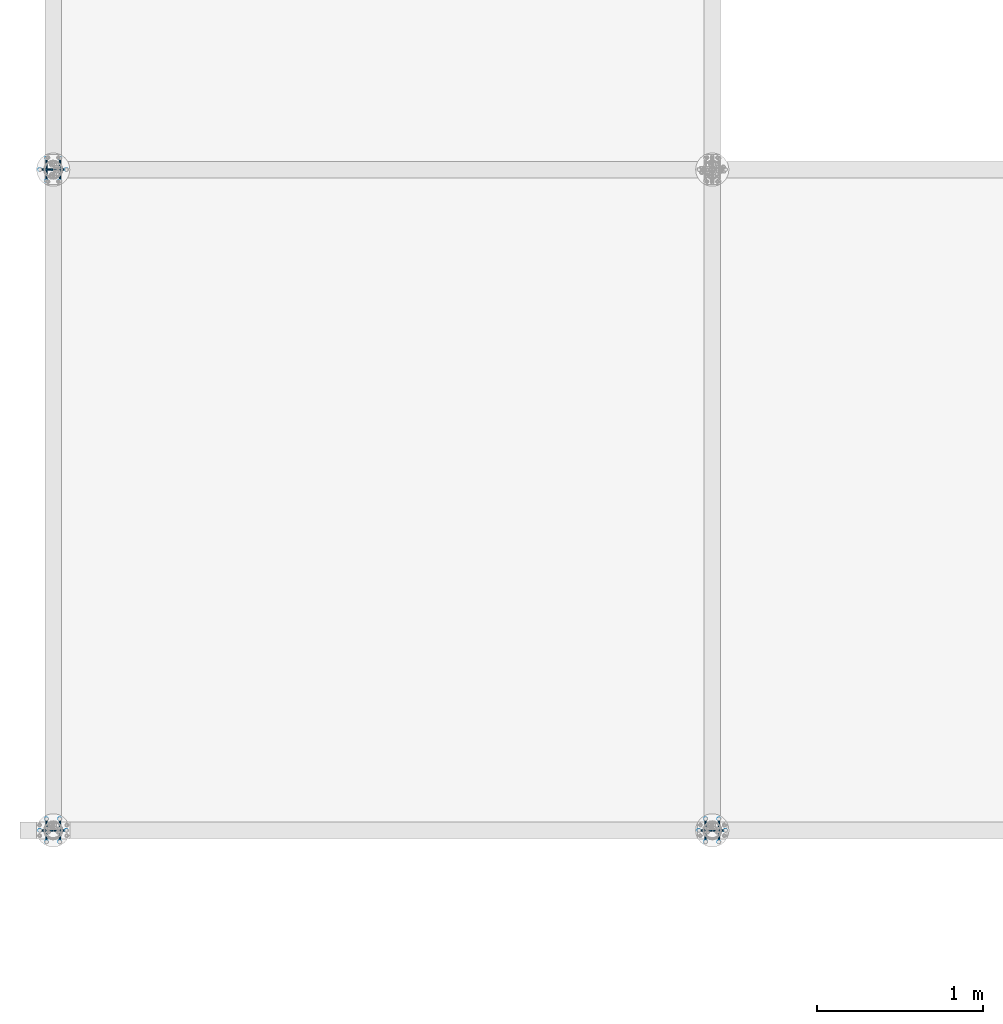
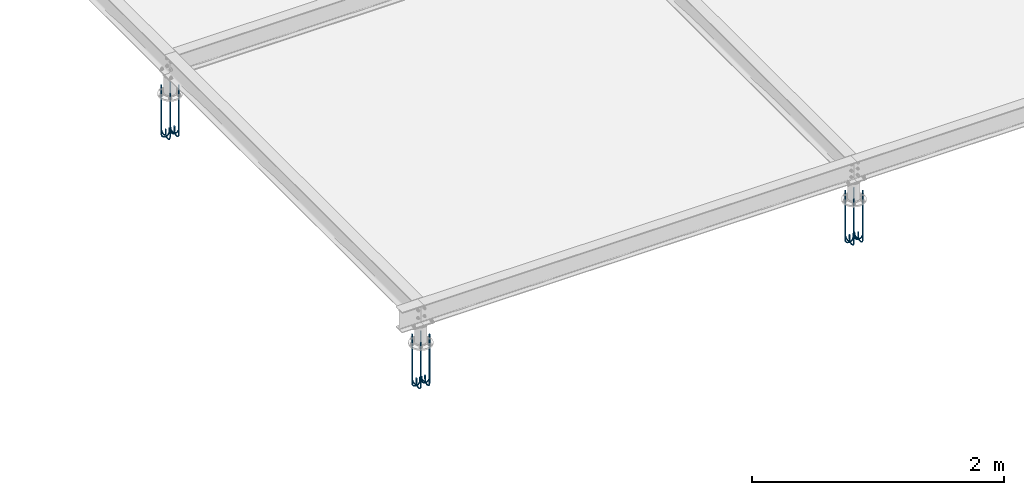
# One storey, part 12 of 84: 9 reinforcing bars.
"""IFC4 building model written with IfcOpenShell, lengths in metres."""

import ifcopenshell
import ifcopenshell.guid

model = None  # the IFC model being written
_history = None  # IfcOwnerHistory: only IFC2X3 demands one
_inside = {}  # id of a spatial element -> (the spatial element, [elements in it])
_under = {}  # id of a project, library or spatial element -> (it, [spatial elements below it])
_declared = {}  # id of a project -> (the project, [libraries it declares])
_typed = {}  # id of a type object -> (the type object, [elements of that type])
_made_of = {}  # id of a material, layer set ... -> (it, [elements and type objects made of it])


def new_model(schema):
    """Start an empty IFC model of exactly this schema.

    Asked for "IFC4X3", IfcOpenShell would pick the latest addendum, in which some entities
    have other attributes; the version numbers below select the first issue.
    IFC2X3 requires an IfcOwnerHistory on every rooted entity: one is made here for all.
    """
    global model, _history
    if schema == "IFC4X3":
        model = ifcopenshell.file(schema_version=(4, 3, 0, 0))
    else:
        model = ifcopenshell.file(schema=schema)
    _inside.clear()
    _under.clear()
    _declared.clear()
    _typed.clear()
    _made_of.clear()
    _history = None
    if model.schema == "IFC2X3":
        org = make("IfcOrganization", Name="unknown")
        user = make(
            "IfcPersonAndOrganization",
            ThePerson=make("IfcPerson", FamilyName="unknown"),
            TheOrganization=org,
        )
        app = make(
            "IfcApplication",
            ApplicationDeveloper=org,
            Version="unknown",
            ApplicationFullName="unknown",
            ApplicationIdentifier="unknown",
        )
        _history = make(
            "IfcOwnerHistory",
            OwningUser=user,
            OwningApplication=app,
            ChangeAction="ADDED",
            CreationDate=0,
        )
    return model


def make(cls, **values):
    """One entity of the class cls with the attributes given. An attribute that is None is left unset."""
    return model.create_entity(
        cls, **{name: value for name, value in values.items() if value is not None}
    )


def entity(cls, *values):
    """Any entity or typed value of the class cls, its attributes in the order of the schema. None: left unset."""
    e = model.create_entity(cls)
    for i, value in enumerate(values):
        if value is not None:
            e[i] = value
    return e


def rooted(cls, **values):
    """An entity with a GlobalId (a new one), such as an element, a storey or a relation."""
    return make(cls, GlobalId=ifcopenshell.guid.new(), OwnerHistory=_history, **values)


def si_unit(unit_type, name, prefix=None):
    """IfcSIUnit, for example si_unit("LENGTHUNIT", "METRE", prefix="MILLI")."""
    return make("IfcSIUnit", UnitType=unit_type, Prefix=prefix, Name=name)


def assignment(units):
    """IfcUnitAssignment: the units of a project."""
    return None if units is None else make("IfcUnitAssignment", Units=units)


def point(xyz):
    """IfcCartesianPoint."""
    return None if xyz is None else make("IfcCartesianPoint", Coordinates=xyz)


def direction(xyz):
    """IfcDirection."""
    return None if xyz is None else make("IfcDirection", DirectionRatios=xyz)


def frame(location, z_axis=None, x_axis=None):
    """IfcAxis2Placement3D, a coordinate frame: its origin and axes. An axis left out is left unset."""
    return make(
        "IfcAxis2Placement3D",
        Location=point(location),
        Axis=direction(z_axis),
        RefDirection=direction(x_axis),
    )


def origin_with_axes():
    """The frame at (0, 0, 0) with the z axis (0, 0, 1) and the x axis (1, 0, 0) written out."""
    return frame((0.0, 0.0, 0.0), z_axis=(0.0, 0.0, 1.0), x_axis=(1.0, 0.0, 0.0))


def place(relative_to, where):
    """IfcLocalPlacement: puts the frame where relative to a parent placement (None: the world)."""
    return make(
        "IfcLocalPlacement", PlacementRelTo=relative_to, RelativePlacement=where
    )


def context(
    kind, dimensions, precision=None, world=None, true_north=None, identifier=None
):
    """IfcGeometricRepresentationContext, for example the 3D "Model" context."""
    return make(
        "IfcGeometricRepresentationContext",
        ContextIdentifier=identifier,
        ContextType=kind,
        CoordinateSpaceDimension=dimensions,
        Precision=precision,
        WorldCoordinateSystem=world,
        TrueNorth=true_north,
    )


def project(units=None, contexts=None):
    """IfcProject with its units and contexts."""
    return rooted(
        "IfcProject",
        Name="project",
        RepresentationContexts=contexts,
        UnitsInContext=assignment(units),
    )


def spatial(cls, under=None, at=None, **own):
    """A site, building, storey or space (cls), placed at a placement, below another one or the project."""
    s = rooted(cls, ObjectPlacement=at, **own)
    if under is not None:
        _under.setdefault(under.id(), (under, []))[1].append(s)
    return s


def shape(context_of_items, identifier, shape_type, items):
    """IfcShapeRepresentation: the items that make up one representation, for example the "Body"."""
    return make(
        "IfcShapeRepresentation",
        ContextOfItems=context_of_items,
        RepresentationIdentifier=identifier,
        RepresentationType=shape_type,
        Items=items,
    )


def source(mapping_origin, context_of_items, identifier, shape_type, items):
    """IfcRepresentationMap: a shape defined once, which mapped items show again and again."""
    return make(
        "IfcRepresentationMap",
        MappingOrigin=mapping_origin,
        MappedRepresentation=shape(context_of_items, identifier, shape_type, items),
    )


def transform(
    local_origin,
    x_axis=None,
    y_axis=None,
    z_axis=None,
    scale=None,
    scale2=None,
    scale3=None,
    uniform=True,
):
    """IfcCartesianTransformationOperator3D, or its non-uniform kind. x_axis, y_axis, z_axis: its Axis1, 2, 3."""
    if uniform:
        return make(
            "IfcCartesianTransformationOperator3D",
            Axis1=direction(x_axis),
            Axis2=direction(y_axis),
            LocalOrigin=point(local_origin),
            Scale=scale,
            Axis3=direction(z_axis),
        )
    return make(
        "IfcCartesianTransformationOperator3DnonUniform",
        Axis1=direction(x_axis),
        Axis2=direction(y_axis),
        LocalOrigin=point(local_origin),
        Scale=scale,
        Axis3=direction(z_axis),
        Scale2=scale2,
        Scale3=scale3,
    )


def mapped(mapping_source, mapping_target):
    """IfcMappedItem: shows the shape of a source again, moved by a transform."""
    return make(
        "IfcMappedItem", MappingSource=mapping_source, MappingTarget=mapping_target
    )


def made_of(thing, what):
    """Note that an element or type object is made of a material, layer set ...; save() writes the relation."""
    if what is not None:
        _made_of.setdefault(what.id(), (what, []))[1].append(thing)
    return thing


def element(
    cls,
    number,
    at=None,
    inside=None,
    cuts=None,
    type_object=None,
    material=None,
    context=None,
    identifier="Body",
    shape_type=None,
    held_by="IfcProductDefinitionShape",
    body=None,
    shapes=None,
    **own,
):
    """One element of the class cls, such as IfcWall. Its Tag is "e" and its number.

    at: its placement. inside: the storey or other place that contains it. cuts: it is an
    opening in that element (IfcRelVoidsElement). A single representation is given by context,
    identifier, shape_type and body (its items); several are given by shapes. held_by: the class
    of the entity that holds the representations. save() writes the other relations.
    """
    e = rooted(cls, Tag="e%d" % number, ObjectPlacement=at, **own)
    if body is not None:
        shapes = [shape(context, identifier, shape_type, body)]
    if shapes is not None:
        e.Representation = make(held_by, Representations=shapes)
    if inside is not None:
        _inside.setdefault(inside.id(), (inside, []))[1].append(e)
    if cuts is not None:
        rooted(
            "IfcRelVoidsElement", RelatingBuildingElement=cuts, RelatedOpeningElement=e
        )
    if type_object is not None:
        _typed.setdefault(type_object.id(), (type_object, []))[1].append(e)
    return made_of(e, material)


def aggregate(whole, parts):
    """IfcRelAggregates: a whole, such as a stair, and the parts it consists of."""
    return rooted("IfcRelAggregates", RelatingObject=whole, RelatedObjects=parts)


def save(model, path):
    """Write the relations noted so far, then the file.

    IfcRelAggregates (storeys below a building ...), IfcRelContainedInSpatialStructure (elements
    in a storey), IfcRelDefinesByType, IfcRelAssociatesMaterial and IfcRelDeclares: one each for
    every whole, place, type object, material and project.
    """
    for whole, parts in _under.values():
        aggregate(whole, parts)
    for where, things in _inside.values():
        rooted(
            "IfcRelContainedInSpatialStructure",
            RelatedElements=things,
            RelatingStructure=where,
        )
    for kind, things in _typed.values():
        rooted("IfcRelDefinesByType", RelatedObjects=things, RelatingType=kind)
    for what, things in _made_of.values():
        rooted("IfcRelAssociatesMaterial", RelatedObjects=things, RelatingMaterial=what)
    for by, libraries in _declared.values():
        rooted("IfcRelDeclares", RelatingContext=by, RelatedDefinitions=libraries)
    model.write(path)


model = new_model("IFC4")

# Units and contexts
model_context = context("Model", 3, precision=1e-05, world=origin_with_axes())
ifc_project = project(units=[si_unit("LENGTHUNIT", "METRE"), si_unit("AREAUNIT", "SQUARE_METRE"), si_unit("VOLUMEUNIT", "CUBIC_METRE"), si_unit("MASSUNIT", "GRAM", prefix="KILO"), si_unit("TIMEUNIT", "SECOND"), si_unit("PLANEANGLEUNIT", "RADIAN"), si_unit("SOLIDANGLEUNIT", "STERADIAN"), si_unit("THERMODYNAMICTEMPERATUREUNIT", "DEGREE_CELSIUS")], contexts=[model_context])

# Site, building, storey
placement_1 = place(None, origin_with_axes())
site = spatial("IfcSite", under=ifc_project, at=placement_1, Name="Italia", CompositionType="ELEMENT")
building = spatial("IfcBuilding", under=site, at=placement_1, Name="Tettoia", CompositionType="ELEMENT")
storey_placement = place(None, frame((0.0, 0.0, 4.199999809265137), z_axis=(0.0, 0.0, 1.0), x_axis=(1.0, 0.0, 0.0)))
storey = spatial("IfcBuildingStorey", under=building, at=storey_placement, Name="Storey 1", CompositionType="ELEMENT", Elevation=4.199999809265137)

# Reinforcing bars
shared_shape_1 = source(origin_with_axes(), model_context, "Body", "AdvancedSweptSolid", [
    entity("IfcSweptDiskSolid", entity("IfcIndexedPolyCurve", entity("IfcCartesianPointList3D", [[0.02, 9.97, 4.065], [0.02, 9.97, 3.642]]), [entity("IfcLineIndex", [1, 2])], False), 0.006),
])
placement_2 = place(placement_1, origin_with_axes())
reinforcing_bar_1_placement = place(placement_2, origin_with_axes())
element("IfcReinforcingBar", 1, at=reinforcing_bar_1_placement, inside=storey, BarLength=0.423, CrossSectionArea=0.0001131, NominalDiameter=0.012, context=model_context, shape_type="MappedRepresentation", body=[
    mapped(shared_shape_1, transform((0.12, -0.0692816, 0.0), x_axis=(1.0, 0.0, 0.0), y_axis=(0.0, 1.0, 0.0), z_axis=(0.0, 0.0, 1.0), scale=1.0)),
    mapped(shared_shape_1, transform((0.04, -0.0692816, 0.0), x_axis=(1.0, 0.0, 0.0), y_axis=(0.0, 1.0, 0.0), z_axis=(0.0, 0.0, 1.0), scale=1.0)),
    mapped(shared_shape_1, transform((0.0, 0.0, 0.0), x_axis=(1.0, 0.0, 0.0), y_axis=(0.0, 1.0, 0.0), z_axis=(0.0, 0.0, 1.0), scale=1.0)),
    mapped(shared_shape_1, transform((0.04, 0.0692816, 0.0), x_axis=(1.0, 0.0, 0.0), y_axis=(0.0, 1.0, 0.0), z_axis=(0.0, 0.0, 1.0), scale=1.0)),
    mapped(shared_shape_1, transform((0.12, 0.0692816, 0.0), x_axis=(1.0, 0.0, 0.0), y_axis=(0.0, 1.0, 0.0), z_axis=(0.0, 0.0, 1.0), scale=1.0)),
    mapped(shared_shape_1, transform((0.16, 0.0, 0.0), x_axis=(1.0, 0.0, 0.0), y_axis=(0.0, 1.0, 0.0), z_axis=(0.0, 0.0, 1.0), scale=1.0)),
])
shared_shape_2 = source(origin_with_axes(), model_context, "Body", "AdvancedSweptSolid", [
    entity("IfcSweptDiskSolid", entity("IfcIndexedPolyCurve", entity("IfcCartesianPointList3D", [[0.02, 9.97, 3.642], [0.0227403, 9.97, 3.62822]]), [entity("IfcLineIndex", [1, 2])], False), 0.006),
])
reinforcing_bar_2_placement = place(placement_2, origin_with_axes())
element("IfcReinforcingBar", 2, at=reinforcing_bar_2_placement, inside=storey, BarLength=0.0140464, CrossSectionArea=0.0001131, NominalDiameter=0.012, context=model_context, shape_type="MappedRepresentation", body=[
    mapped(shared_shape_2, transform((0.200003, 19.94, 0.0), x_axis=(-1.0, 0.0, 0.0), y_axis=(0.0, -1.0, 0.0), z_axis=(0.0, 0.0, 1.0), scale=1.0)),
    mapped(shared_shape_2, transform((-9.83, 7.46767, 1.02705), x_axis=(0.0, -0.707127, 0.707087), y_axis=(1.0, 0.0, 0.0), z_axis=(0.0, 0.707087, 0.707127), scale=1.0)),
    mapped(shared_shape_2, transform((-9.83, 10.0594, 0.0), x_axis=(0.0, -1.0, -2.99215e-05), y_axis=(1.0, 0.0, 0.0), z_axis=(0.0, -2.99215e-05, 1.0), scale=1.0)),
    mapped(shared_shape_2, transform((-9.91, 6.65995, 2.19652), x_axis=(0.0, -0.382685, 0.923879), y_axis=(1.0, 0.0, 0.0), z_axis=(0.0, 0.923879, 0.382685), scale=1.0)),
    mapped(shared_shape_2, transform((-9.83, 8.66126, 0.255811), x_axis=(0.0, -0.923877, 0.382691), y_axis=(1.0, 0.0, 0.0), z_axis=(0.0, 0.382691, 0.923877), scale=1.0)),
    mapped(shared_shape_2, transform((-9.83, 6.65995, 2.19652), x_axis=(0.0, -0.382685, 0.923879), y_axis=(1.0, 0.0, 0.0), z_axis=(0.0, 0.923879, 0.382685), scale=1.0)),
    mapped(shared_shape_2, transform((-9.91, 8.66126, 0.255811), x_axis=(0.0, -0.923877, 0.382691), y_axis=(1.0, 0.0, 0.0), z_axis=(0.0, 0.382691, 0.923877), scale=1.0)),
    mapped(shared_shape_2, transform((-9.91, 10.0594, 0.0), x_axis=(0.0, -1.0, -2.99215e-05), y_axis=(1.0, 0.0, 0.0), z_axis=(0.0, -2.99215e-05, 1.0), scale=1.0)),
    mapped(shared_shape_2, transform((-1.19802, 19.94, 0.25581), x_axis=(-0.923877, 0.0, 0.38269), y_axis=(0.0, -1.0, 0.0), z_axis=(0.38269, 0.0, 0.923877), scale=1.0)),
    mapped(shared_shape_2, transform((-9.91, 7.46767, 1.02705), x_axis=(0.0, -0.707127, 0.707087), y_axis=(1.0, 0.0, 0.0), z_axis=(0.0, 0.707087, 0.707127), scale=1.0)),
    mapped(shared_shape_2, transform((-2.39167, 19.94, 1.02711), x_axis=(-0.70711, 0.0, 0.707104), y_axis=(0.0, -1.0, 0.0), z_axis=(0.707104, 0.0, 0.70711), scale=1.0)),
    mapped(shared_shape_2, transform((-3.19933, 19.94, 2.19651), x_axis=(-0.382689, 0.0, 0.923877), y_axis=(0.0, -1.0, 0.0), z_axis=(0.923877, 0.0, 0.382689), scale=1.0)),
    mapped(shared_shape_2, transform((-9.83, 6.36128, 3.586), x_axis=(0.0, 0.0, 1.0), y_axis=(1.0, 0.0, 0.0), z_axis=(0.0, 1.0, 0.0), scale=1.0)),
    mapped(shared_shape_2, transform((-9.91, 6.36128, 3.586), x_axis=(0.0, 0.0, 1.0), y_axis=(1.0, 0.0, 0.0), z_axis=(0.0, 1.0, 0.0), scale=1.0)),
    mapped(shared_shape_2, transform((-3.2422, 19.94, 4.984), x_axis=(0.382685, 0.0, 0.923879), y_axis=(0.0, -1.0, 0.0), z_axis=(0.923879, 0.0, -0.382685), scale=1.0)),
    mapped(shared_shape_2, transform((-3.498, 19.94, 3.58602), x_axis=(0.0, 0.0, 1.0), y_axis=(0.0, -1.0, 0.0), z_axis=(1.0, 0.0, 0.0), scale=1.0)),
    mapped(shared_shape_2, transform((-9.83, 6.61712, 4.98409), x_axis=(0.0, 0.382708, 0.923869), y_axis=(1.0, 0.0, 0.0), z_axis=(0.0, 0.923869, -0.382708), scale=1.0)),
    mapped(shared_shape_2, transform((-9.91, 7.38823, 6.17752), x_axis=(0.0, 0.70706, 0.707153), y_axis=(1.0, 0.0, 0.0), z_axis=(0.0, 0.707153, -0.70706), scale=1.0)),
    mapped(shared_shape_2, transform((-9.91, 6.61712, 4.98409), x_axis=(0.0, 0.382708, 0.923869), y_axis=(1.0, 0.0, 0.0), z_axis=(0.0, 0.923869, -0.382708), scale=1.0)),
    mapped(shared_shape_2, transform((-9.83, 8.55792, 6.98538), x_axis=(0.0, 0.923892, 0.382654), y_axis=(1.0, 0.0, 0.0), z_axis=(0.0, 0.382654, -0.923892), scale=1.0)),
    mapped(shared_shape_2, transform((-9.83, 7.38823, 6.17752), x_axis=(0.0, 0.70706, 0.707153), y_axis=(1.0, 0.0, 0.0), z_axis=(0.0, 0.707153, -0.70706), scale=1.0)),
    mapped(shared_shape_2, transform((-1.30148, 19.94, 6.98534), x_axis=(0.923879, 0.0, 0.382685), y_axis=(0.0, -1.0, 0.0), z_axis=(0.382685, 0.0, -0.923879), scale=1.0)),
    mapped(shared_shape_2, transform((-2.4709, 19.94, 6.17767), x_axis=(0.707103, 0.0, 0.707111), y_axis=(0.0, -1.0, 0.0), z_axis=(0.707111, 0.0, -0.707103), scale=1.0)),
    mapped(shared_shape_2, transform((-9.91, 8.55792, 6.98538), x_axis=(0.0, 0.923892, 0.382654), y_axis=(1.0, 0.0, 0.0), z_axis=(0.0, 0.382654, -0.923892), scale=1.0)),
    mapped(shared_shape_2, transform((1.50148, 0.0, 6.98534), x_axis=(-0.923879, 0.0, 0.382685), y_axis=(0.0, 1.0, 0.0), z_axis=(-0.382685, 0.0, -0.923879), scale=1.0)),
    mapped(shared_shape_2, transform((2.6709, 0.0, 6.17767), x_axis=(-0.707103, 0.0, 0.707111), y_axis=(0.0, 1.0, 0.0), z_axis=(-0.707111, 0.0, -0.707103), scale=1.0)),
    mapped(shared_shape_2, transform((3.698, 0.0, 3.58602), x_axis=(0.0, 0.0, 1.0), y_axis=(0.0, 1.0, 0.0), z_axis=(-1.0, 0.0, 0.0), scale=1.0)),
    mapped(shared_shape_2, transform((3.4422, 0.0, 4.984), x_axis=(-0.382685, 0.0, 0.923879), y_axis=(0.0, 1.0, 0.0), z_axis=(-0.923879, 0.0, -0.382685), scale=1.0)),
    mapped(shared_shape_2, transform((1.39802, 0.0, 0.255809), x_axis=(0.923877, 0.0, 0.382689), y_axis=(0.0, 1.0, 0.0), z_axis=(-0.382689, 0.0, 0.923877), scale=1.0)),
    mapped(shared_shape_2, transform((0.0, 0.0, 0.0), x_axis=(1.0, 0.0, 0.0), y_axis=(0.0, 1.0, 0.0), z_axis=(0.0, 0.0, 1.0), scale=1.0)),
    mapped(shared_shape_2, transform((10.03, 12.4723, 1.02705), x_axis=(0.0, 0.707127, 0.707087), y_axis=(-1.0, 0.0, 0.0), z_axis=(0.0, -0.707087, 0.707127), scale=1.0)),
    mapped(shared_shape_2, transform((10.03, 9.88061, 0.0), x_axis=(0.0, 1.0, -2.99215e-05), y_axis=(-1.0, 0.0, 0.0), z_axis=(0.0, 2.99215e-05, 1.0), scale=1.0)),
    mapped(shared_shape_2, transform((10.11, 11.2787, 0.255811), x_axis=(0.0, 0.923877, 0.382691), y_axis=(-1.0, 0.0, 0.0), z_axis=(0.0, -0.382691, 0.923877), scale=1.0)),
    mapped(shared_shape_2, transform((10.03, 11.2787, 0.255811), x_axis=(0.0, 0.923877, 0.382691), y_axis=(-1.0, 0.0, 0.0), z_axis=(0.0, -0.382691, 0.923877), scale=1.0)),
    mapped(shared_shape_2, transform((10.11, 12.4723, 1.02705), x_axis=(0.0, 0.707127, 0.707087), y_axis=(-1.0, 0.0, 0.0), z_axis=(0.0, -0.707087, 0.707127), scale=1.0)),
    mapped(shared_shape_2, transform((2.59167, 0.0, 1.02711), x_axis=(0.70711, 0.0, 0.707104), y_axis=(0.0, 1.0, 0.0), z_axis=(-0.707104, 0.0, 0.70711), scale=1.0)),
    mapped(shared_shape_2, transform((10.11, 9.88061, 0.0), x_axis=(0.0, 1.0, -2.99215e-05), y_axis=(-1.0, 0.0, 0.0), z_axis=(0.0, 2.99215e-05, 1.0), scale=1.0)),
    mapped(shared_shape_2, transform((3.39933, 0.0, 2.19651), x_axis=(0.382689, 0.0, 0.923877), y_axis=(0.0, 1.0, 0.0), z_axis=(-0.923877, 0.0, 0.382689), scale=1.0)),
    mapped(shared_shape_2, transform((10.11, 11.3821, 6.98538), x_axis=(0.0, -0.923892, 0.382654), y_axis=(-1.0, 0.0, 0.0), z_axis=(0.0, -0.382654, -0.923892), scale=1.0)),
    mapped(shared_shape_2, transform((10.03, 13.3229, 4.98409), x_axis=(0.0, -0.382708, 0.923869), y_axis=(-1.0, 0.0, 0.0), z_axis=(0.0, -0.923869, -0.382708), scale=1.0)),
    mapped(shared_shape_2, transform((10.03, 13.5787, 3.586), x_axis=(0.0, 0.0, 1.0), y_axis=(-1.0, 0.0, 0.0), z_axis=(0.0, -1.0, 0.0), scale=1.0)),
    mapped(shared_shape_2, transform((10.03, 13.2801, 2.19652), x_axis=(0.0, 0.382685, 0.923879), y_axis=(-1.0, 0.0, 0.0), z_axis=(0.0, -0.923879, 0.382685), scale=1.0)),
    mapped(shared_shape_2, transform((10.11, 13.5787, 3.586), x_axis=(0.0, 0.0, 1.0), y_axis=(-1.0, 0.0, 0.0), z_axis=(0.0, -1.0, 0.0), scale=1.0)),
    mapped(shared_shape_2, transform((10.11, 12.5518, 6.17752), x_axis=(0.0, -0.70706, 0.707153), y_axis=(-1.0, 0.0, 0.0), z_axis=(0.0, -0.707153, -0.70706), scale=1.0)),
    mapped(shared_shape_2, transform((10.11, 13.3229, 4.98409), x_axis=(0.0, -0.382708, 0.923869), y_axis=(-1.0, 0.0, 0.0), z_axis=(0.0, -0.923869, -0.382708), scale=1.0)),
    mapped(shared_shape_2, transform((10.03, 12.5518, 6.17752), x_axis=(0.0, -0.70706, 0.707153), y_axis=(-1.0, 0.0, 0.0), z_axis=(0.0, -0.707153, -0.70706), scale=1.0)),
    mapped(shared_shape_2, transform((10.11, 13.2801, 2.19652), x_axis=(0.0, 0.382685, 0.923879), y_axis=(-1.0, 0.0, 0.0), z_axis=(0.0, -0.923879, 0.382685), scale=1.0)),
    mapped(shared_shape_2, transform((10.03, 11.3821, 6.98538), x_axis=(0.0, -0.923892, 0.382654), y_axis=(-1.0, 0.0, 0.0), z_axis=(0.0, -0.382654, -0.923892), scale=1.0)),
])
shared_shape_3 = source(origin_with_axes(), model_context, "Body", "AdvancedSweptSolid", [
    entity("IfcSweptDiskSolid", entity("IfcIndexedPolyCurve", entity("IfcCartesianPointList3D", [[0.092, 9.97, 3.642], [0.092, 9.97, 3.678]]), [entity("IfcLineIndex", [1, 2])], False), 0.006),
])
reinforcing_bar_3_placement = place(placement_2, origin_with_axes())
element("IfcReinforcingBar", 3, at=reinforcing_bar_3_placement, inside=storey, BarLength=0.0359998, CrossSectionArea=0.0001131, NominalDiameter=0.012, context=model_context, shape_type="MappedRepresentation", body=[
    mapped(shared_shape_3, transform((0.048, 0.00271797, 0.0), x_axis=(1.0, 0.0, 0.0), y_axis=(0.0, 1.0, 0.0), z_axis=(0.0, 0.0, 1.0), scale=1.0)),
    mapped(shared_shape_3, transform((-0.032, 0.00271797, 0.0), x_axis=(1.0, 0.0, 0.0), y_axis=(0.0, 1.0, 0.0), z_axis=(0.0, 0.0, 1.0), scale=1.0)),
    mapped(shared_shape_3, transform((0.0, 0.0, 0.0), x_axis=(1.0, 0.0, 0.0), y_axis=(0.0, 1.0, 0.0), z_axis=(0.0, 0.0, 1.0), scale=1.0)),
    mapped(shared_shape_3, transform((-0.032, -0.00271797, 0.0), x_axis=(1.0, 0.0, 0.0), y_axis=(0.0, 1.0, 0.0), z_axis=(0.0, 0.0, 1.0), scale=1.0)),
    mapped(shared_shape_3, transform((0.048, -0.00271797, 0.0), x_axis=(1.0, 0.0, 0.0), y_axis=(0.0, 1.0, 0.0), z_axis=(0.0, 0.0, 1.0), scale=1.0)),
    mapped(shared_shape_3, transform((0.016, 0.0, 0.0), x_axis=(1.0, 0.0, 0.0), y_axis=(0.0, 1.0, 0.0), z_axis=(0.0, 0.0, 1.0), scale=1.0)),
])
shared_shape_4 = source(origin_with_axes(), model_context, "Body", "AdvancedSweptSolid", [
    entity("IfcSweptDiskSolid", entity("IfcIndexedPolyCurve", entity("IfcCartesianPointList3D", [[3.99, 9.97, 4.065], [3.99, 9.97, 3.642]]), [entity("IfcLineIndex", [1, 2])], False), 0.006),
])
reinforcing_bar_4_placement = place(placement_2, origin_with_axes())
element("IfcReinforcingBar", 4, at=reinforcing_bar_4_placement, inside=storey, BarLength=0.423, CrossSectionArea=0.0001131, NominalDiameter=0.012, context=model_context, shape_type="MappedRepresentation", body=[
    mapped(shared_shape_4, transform((0.12, -0.0692816, 0.0), x_axis=(1.0, 0.0, 0.0), y_axis=(0.0, 1.0, 0.0), z_axis=(0.0, 0.0, 1.0), scale=1.0)),
    mapped(shared_shape_4, transform((0.0400002, -0.0692816, 0.0), x_axis=(1.0, 0.0, 0.0), y_axis=(0.0, 1.0, 0.0), z_axis=(0.0, 0.0, 1.0), scale=1.0)),
    mapped(shared_shape_4, transform((0.0, 0.0, 0.0), x_axis=(1.0, 0.0, 0.0), y_axis=(0.0, 1.0, 0.0), z_axis=(0.0, 0.0, 1.0), scale=1.0)),
    mapped(shared_shape_4, transform((0.0400002, 0.0692816, 0.0), x_axis=(1.0, 0.0, 0.0), y_axis=(0.0, 1.0, 0.0), z_axis=(0.0, 0.0, 1.0), scale=1.0)),
    mapped(shared_shape_4, transform((0.12, 0.0692816, 0.0), x_axis=(1.0, 0.0, 0.0), y_axis=(0.0, 1.0, 0.0), z_axis=(0.0, 0.0, 1.0), scale=1.0)),
    mapped(shared_shape_4, transform((0.16, 0.0, 0.0), x_axis=(1.0, 0.0, 0.0), y_axis=(0.0, 1.0, 0.0), z_axis=(0.0, 0.0, 1.0), scale=1.0)),
])
shared_shape_5 = source(origin_with_axes(), model_context, "Body", "AdvancedSweptSolid", [
    entity("IfcSweptDiskSolid", entity("IfcIndexedPolyCurve", entity("IfcCartesianPointList3D", [[3.99, 9.97, 3.642], [3.99274, 9.97, 3.62822]]), [entity("IfcLineIndex", [1, 2])], False), 0.006),
])
reinforcing_bar_5_placement = place(placement_2, origin_with_axes())
element("IfcReinforcingBar", 5, at=reinforcing_bar_5_placement, inside=storey, BarLength=0.0140465, CrossSectionArea=0.0001131, NominalDiameter=0.012, context=model_context, shape_type="MappedRepresentation", body=[
    mapped(shared_shape_5, transform((4.3857, 19.94, -1.78009), x_axis=(-0.707129, 0.0, 0.707085), y_axis=(0.0, -1.0, 0.0), z_axis=(0.707085, 0.0, 0.707129), scale=1.0)),
    mapped(shared_shape_5, transform((-5.86, 8.17922, -1.47128), x_axis=(0.0, -0.382688, 0.923878), y_axis=(1.0, 0.0, 0.0), z_axis=(0.0, 0.923878, 0.382688), scale=1.0)),
    mapped(shared_shape_5, transform((-5.94, 8.17922, -1.47128), x_axis=(0.0, -0.382688, 0.923878), y_axis=(1.0, 0.0, 0.0), z_axis=(0.0, 0.923878, 0.382688), scale=1.0)),
    mapped(shared_shape_5, transform((-5.94, 6.3613, -0.384012), x_axis=(0.0, 0.0, 1.0), y_axis=(1.0, 0.0, 0.0), z_axis=(0.0, 1.0, 0.0), scale=1.0)),
    mapped(shared_shape_5, transform((-5.86, 10.275, -1.78009), x_axis=(0.0, -0.707129, 0.707085), y_axis=(1.0, 0.0, 0.0), z_axis=(0.0, 0.707085, 0.707129), scale=1.0)),
    mapped(shared_shape_5, transform((-5.94, 10.275, -1.78009), x_axis=(0.0, -0.707129, 0.707085), y_axis=(1.0, 0.0, 0.0), z_axis=(0.0, 0.707085, 0.707129), scale=1.0)),
    mapped(shared_shape_5, transform((2.28994, 19.94, -1.47128), x_axis=(-0.382688, 0.0, 0.923878), y_axis=(0.0, -1.0, 0.0), z_axis=(0.923878, 0.0, 0.382688), scale=1.0)),
    mapped(shared_shape_5, transform((-5.86, 12.3291, -1.26346), x_axis=(0.0, -0.923878, 0.382687), y_axis=(1.0, 0.0, 0.0), z_axis=(0.0, 0.382687, 0.923878), scale=1.0)),
    mapped(shared_shape_5, transform((-5.94, 12.3291, -1.26346), x_axis=(0.0, -0.923878, 0.382687), y_axis=(1.0, 0.0, 0.0), z_axis=(0.0, 0.382687, 0.923878), scale=1.0)),
    mapped(shared_shape_5, transform((0.472014, 19.94, -0.384012), x_axis=(0.0, 0.0, 1.0), y_axis=(0.0, -1.0, 0.0), z_axis=(1.0, 0.0, 0.0), scale=1.0)),
    mapped(shared_shape_5, transform((-5.86, 14.0294, 0.000133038), x_axis=(0.0, -1.0, -3.3319e-05), y_axis=(1.0, 0.0, 0.0), z_axis=(0.0, -3.3319e-05, 1.0), scale=1.0)),
    mapped(shared_shape_5, transform((-5.86, 5.09778, 1.31631), x_axis=(0.0, 0.382705, 0.923871), y_axis=(1.0, 0.0, 0.0), z_axis=(0.0, 0.923871, -0.382705), scale=1.0)),
    mapped(shared_shape_5, transform((-5.86, 6.3613, -0.384012), x_axis=(0.0, 0.0, 1.0), y_axis=(1.0, 0.0, 0.0), z_axis=(0.0, 1.0, 0.0), scale=1.0)),
    mapped(shared_shape_5, transform((-5.86, 4.58121, 3.3701), x_axis=(0.0, 0.707058, 0.707156), y_axis=(1.0, 0.0, 0.0), z_axis=(0.0, 0.707156, -0.707058), scale=1.0)),
    mapped(shared_shape_5, transform((-5.94, 14.0294, 0.000133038), x_axis=(0.0, -1.0, -3.3319e-05), y_axis=(1.0, 0.0, 0.0), z_axis=(0.0, -3.3319e-05, 1.0), scale=1.0)),
    mapped(shared_shape_5, transform((-0.791462, 19.94, 1.31622), x_axis=(0.382687, 0.0, 0.923878), y_axis=(0.0, -1.0, 0.0), z_axis=(0.923878, 0.0, -0.382687), scale=1.0)),
    mapped(shared_shape_5, transform((-5.94, 4.89006, 5.46623), x_axis=(0.0, 0.92389, 0.382657), y_axis=(1.0, 0.0, 0.0), z_axis=(0.0, 0.382657, -0.92389), scale=1.0)),
    mapped(shared_shape_5, transform((-5.94, 4.58121, 3.3701), x_axis=(0.0, 0.707058, 0.707156), y_axis=(1.0, 0.0, 0.0), z_axis=(0.0, 0.707156, -0.707058), scale=1.0)),
    mapped(shared_shape_5, transform((-5.86, 4.89006, 5.46623), x_axis=(0.0, 0.92389, 0.382657), y_axis=(1.0, 0.0, 0.0), z_axis=(0.0, 0.382657, -0.92389), scale=1.0)),
    mapped(shared_shape_5, transform((-5.94, 5.09778, 1.31631), x_axis=(0.0, 0.382705, 0.923871), y_axis=(1.0, 0.0, 0.0), z_axis=(0.0, 0.923871, -0.382705), scale=1.0)),
    mapped(shared_shape_5, transform((-1.30809, 19.94, 3.3704), x_axis=(0.707098, 0.0, 0.707116), y_axis=(0.0, -1.0, 0.0), z_axis=(0.707116, 0.0, -0.707098), scale=1.0)),
    mapped(shared_shape_5, transform((-0.99928, 19.94, 5.46606), x_axis=(0.923878, 0.0, 0.382688), y_axis=(0.0, -1.0, 0.0), z_axis=(0.382688, 0.0, -0.923878), scale=1.0)),
    mapped(shared_shape_5, transform((9.13928, 0.0, 5.46606), x_axis=(-0.923878, 0.0, 0.382688), y_axis=(0.0, 1.0, 0.0), z_axis=(-0.382688, 0.0, -0.923878), scale=1.0)),
    mapped(shared_shape_5, transform((9.44809, 0.0, 3.3704), x_axis=(-0.707098, 0.0, 0.707116), y_axis=(0.0, 1.0, 0.0), z_axis=(-0.707116, 0.0, -0.707098), scale=1.0)),
    mapped(shared_shape_5, transform((14.0, 9.66502, -1.78009), x_axis=(0.0, 0.707129, 0.707085), y_axis=(-1.0, 0.0, 0.0), z_axis=(0.0, -0.707085, 0.707129), scale=1.0)),
    mapped(shared_shape_5, transform((5.85006, 0.0, -1.47128), x_axis=(0.382688, 0.0, 0.923878), y_axis=(0.0, 1.0, 0.0), z_axis=(-0.923878, 0.0, 0.382688), scale=1.0)),
    mapped(shared_shape_5, transform((3.7543, 0.0, -1.78009), x_axis=(0.707129, 0.0, 0.707085), y_axis=(0.0, 1.0, 0.0), z_axis=(-0.707085, 0.0, 0.707129), scale=1.0)),
    mapped(shared_shape_5, transform((6.43979, 19.94, -1.26346), x_axis=(-0.923878, 0.0, 0.382687), y_axis=(0.0, -1.0, 0.0), z_axis=(0.382687, 0.0, 0.923878), scale=1.0)),
    mapped(shared_shape_5, transform((14.08, 11.7608, -1.47128), x_axis=(0.0, 0.382688, 0.923878), y_axis=(-1.0, 0.0, 0.0), z_axis=(0.0, -0.923878, 0.382688), scale=1.0)),
    mapped(shared_shape_5, transform((14.0, 11.7608, -1.47128), x_axis=(0.0, 0.382688, 0.923878), y_axis=(-1.0, 0.0, 0.0), z_axis=(0.0, -0.923878, 0.382688), scale=1.0)),
    mapped(shared_shape_5, transform((14.0, 7.61093, -1.26346), x_axis=(0.0, 0.923878, 0.382687), y_axis=(-1.0, 0.0, 0.0), z_axis=(0.0, -0.382687, 0.923878), scale=1.0)),
    mapped(shared_shape_5, transform((14.08, 7.61093, -1.26346), x_axis=(0.0, 0.923878, 0.382687), y_axis=(-1.0, 0.0, 0.0), z_axis=(0.0, -0.382687, 0.923878), scale=1.0)),
    mapped(shared_shape_5, transform((7.66799, 0.0, -0.384012), x_axis=(0.0, 0.0, 1.0), y_axis=(0.0, 1.0, 0.0), z_axis=(-1.0, 0.0, 0.0), scale=1.0)),
    mapped(shared_shape_5, transform((0.0, 0.0, 0.0), x_axis=(1.0, 0.0, 0.0), y_axis=(0.0, 1.0, 0.0), z_axis=(0.0, 0.0, 1.0), scale=1.0)),
    mapped(shared_shape_5, transform((8.93146, 0.0, 1.31622), x_axis=(-0.382687, 0.0, 0.923878), y_axis=(0.0, 1.0, 0.0), z_axis=(-0.923878, 0.0, -0.382687), scale=1.0)),
    mapped(shared_shape_5, transform((1.70022, 0.0, -1.26346), x_axis=(0.923878, 0.0, 0.382687), y_axis=(0.0, 1.0, 0.0), z_axis=(-0.382687, 0.0, 0.923878), scale=1.0)),
    mapped(shared_shape_5, transform((14.0, 15.3588, 3.3701), x_axis=(0.0, -0.707058, 0.707156), y_axis=(-1.0, 0.0, 0.0), z_axis=(0.0, -0.707156, -0.707058), scale=1.0)),
    mapped(shared_shape_5, transform((8.14, 19.94, 0.0), x_axis=(-1.0, 0.0, 0.0), y_axis=(0.0, -1.0, 0.0), z_axis=(0.0, 0.0, 1.0), scale=1.0)),
    mapped(shared_shape_5, transform((14.0, 15.0499, 5.46623), x_axis=(0.0, -0.92389, 0.382657), y_axis=(-1.0, 0.0, 0.0), z_axis=(0.0, -0.382657, -0.92389), scale=1.0)),
    mapped(shared_shape_5, transform((14.08, 13.5787, -0.384012), x_axis=(0.0, 0.0, 1.0), y_axis=(-1.0, 0.0, 0.0), z_axis=(0.0, -1.0, 0.0), scale=1.0)),
    mapped(shared_shape_5, transform((14.0, 14.8422, 1.31631), x_axis=(0.0, -0.382705, 0.923871), y_axis=(-1.0, 0.0, 0.0), z_axis=(0.0, -0.923871, -0.382705), scale=1.0)),
    mapped(shared_shape_5, transform((14.0, 13.5787, -0.384012), x_axis=(0.0, 0.0, 1.0), y_axis=(-1.0, 0.0, 0.0), z_axis=(0.0, -1.0, 0.0), scale=1.0)),
    mapped(shared_shape_5, transform((14.0, 5.9106, 0.000133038), x_axis=(0.0, 1.0, -3.3319e-05), y_axis=(-1.0, 0.0, 0.0), z_axis=(0.0, 3.3319e-05, 1.0), scale=1.0)),
    mapped(shared_shape_5, transform((14.08, 15.0499, 5.46623), x_axis=(0.0, -0.92389, 0.382657), y_axis=(-1.0, 0.0, 0.0), z_axis=(0.0, -0.382657, -0.92389), scale=1.0)),
    mapped(shared_shape_5, transform((14.08, 15.3588, 3.3701), x_axis=(0.0, -0.707058, 0.707156), y_axis=(-1.0, 0.0, 0.0), z_axis=(0.0, -0.707156, -0.707058), scale=1.0)),
    mapped(shared_shape_5, transform((14.08, 14.8422, 1.31631), x_axis=(0.0, -0.382705, 0.923871), y_axis=(-1.0, 0.0, 0.0), z_axis=(0.0, -0.923871, -0.382705), scale=1.0)),
    mapped(shared_shape_5, transform((14.08, 5.9106, 0.000133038), x_axis=(0.0, 1.0, -3.3319e-05), y_axis=(-1.0, 0.0, 0.0), z_axis=(0.0, 3.3319e-05, 1.0), scale=1.0)),
    mapped(shared_shape_5, transform((14.08, 9.66502, -1.78009), x_axis=(0.0, 0.707129, 0.707085), y_axis=(-1.0, 0.0, 0.0), z_axis=(0.0, -0.707085, 0.707129), scale=1.0)),
])
shared_shape_6 = source(origin_with_axes(), model_context, "Body", "AdvancedSweptSolid", [
    entity("IfcSweptDiskSolid", entity("IfcIndexedPolyCurve", entity("IfcCartesianPointList3D", [[4.062, 9.97, 3.642], [4.062, 9.97, 3.678]]), [entity("IfcLineIndex", [1, 2])], False), 0.006),
])
reinforcing_bar_6_placement = place(placement_2, origin_with_axes())
element("IfcReinforcingBar", 6, at=reinforcing_bar_6_placement, inside=storey, BarLength=0.0359998, CrossSectionArea=0.0001131, NominalDiameter=0.012, context=model_context, shape_type="MappedRepresentation", body=[
    mapped(shared_shape_6, transform((0.0479999, 0.00271797, 0.0), x_axis=(1.0, 0.0, 0.0), y_axis=(0.0, 1.0, 0.0), z_axis=(0.0, 0.0, 1.0), scale=1.0)),
    mapped(shared_shape_6, transform((-0.0320001, 0.00271797, 0.0), x_axis=(1.0, 0.0, 0.0), y_axis=(0.0, 1.0, 0.0), z_axis=(0.0, 0.0, 1.0), scale=1.0)),
    mapped(shared_shape_6, transform((0.0, 0.0, 0.0), x_axis=(1.0, 0.0, 0.0), y_axis=(0.0, 1.0, 0.0), z_axis=(0.0, 0.0, 1.0), scale=1.0)),
    mapped(shared_shape_6, transform((-0.0320001, -0.00271797, 0.0), x_axis=(1.0, 0.0, 0.0), y_axis=(0.0, 1.0, 0.0), z_axis=(0.0, 0.0, 1.0), scale=1.0)),
    mapped(shared_shape_6, transform((0.0479999, -0.00271797, 0.0), x_axis=(1.0, 0.0, 0.0), y_axis=(0.0, 1.0, 0.0), z_axis=(0.0, 0.0, 1.0), scale=1.0)),
    mapped(shared_shape_6, transform((0.0159998, 0.0, 0.0), x_axis=(1.0, 0.0, 0.0), y_axis=(0.0, 1.0, 0.0), z_axis=(0.0, 0.0, 1.0), scale=1.0)),
])
shared_shape_7 = source(origin_with_axes(), model_context, "Body", "AdvancedSweptSolid", [
    entity("IfcSweptDiskSolid", entity("IfcIndexedPolyCurve", entity("IfcCartesianPointList3D", [[0.02, 13.95, 4.065], [0.02, 13.95, 3.642]]), [entity("IfcLineIndex", [1, 2])], False), 0.006),
])
reinforcing_bar_7_placement = place(placement_2, origin_with_axes())
element("IfcReinforcingBar", 7, at=reinforcing_bar_7_placement, inside=storey, BarLength=0.423, CrossSectionArea=0.0001131, NominalDiameter=0.012, context=model_context, shape_type="MappedRepresentation", body=[
    mapped(shared_shape_7, transform((0.12, -0.0692806, 0.0), x_axis=(1.0, 0.0, 0.0), y_axis=(0.0, 1.0, 0.0), z_axis=(0.0, 0.0, 1.0), scale=1.0)),
    mapped(shared_shape_7, transform((0.04, -0.0692806, 0.0), x_axis=(1.0, 0.0, 0.0), y_axis=(0.0, 1.0, 0.0), z_axis=(0.0, 0.0, 1.0), scale=1.0)),
    mapped(shared_shape_7, transform((0.0, 0.0, 0.0), x_axis=(1.0, 0.0, 0.0), y_axis=(0.0, 1.0, 0.0), z_axis=(0.0, 0.0, 1.0), scale=1.0)),
    mapped(shared_shape_7, transform((0.04, 0.0692825, 0.0), x_axis=(1.0, 0.0, 0.0), y_axis=(0.0, 1.0, 0.0), z_axis=(0.0, 0.0, 1.0), scale=1.0)),
    mapped(shared_shape_7, transform((0.12, 0.0692825, 0.0), x_axis=(1.0, 0.0, 0.0), y_axis=(0.0, 1.0, 0.0), z_axis=(0.0, 0.0, 1.0), scale=1.0)),
    mapped(shared_shape_7, transform((0.16, 0.0, 0.0), x_axis=(1.0, 0.0, 0.0), y_axis=(0.0, 1.0, 0.0), z_axis=(0.0, 0.0, 1.0), scale=1.0)),
])
shared_shape_8 = source(origin_with_axes(), model_context, "Body", "AdvancedSweptSolid", [
    entity("IfcSweptDiskSolid", entity("IfcIndexedPolyCurve", entity("IfcCartesianPointList3D", [[0.02, 13.95, 3.642], [0.0227403, 13.95, 3.62822]]), [entity("IfcLineIndex", [1, 2])], False), 0.006),
])
reinforcing_bar_8_placement = place(placement_2, origin_with_axes())
element("IfcReinforcingBar", 8, at=reinforcing_bar_8_placement, inside=storey, BarLength=0.0140464, CrossSectionArea=0.0001131, NominalDiameter=0.012, context=model_context, shape_type="MappedRepresentation", body=[
    mapped(shared_shape_8, transform((0.200003, 27.9, 0.0), x_axis=(-1.0, 0.0, 0.0), y_axis=(0.0, -1.0, 0.0), z_axis=(0.0, 0.0, 1.0), scale=1.0)),
    mapped(shared_shape_8, transform((-13.81, 11.4477, 1.02705), x_axis=(0.0, -0.707127, 0.707087), y_axis=(1.0, 0.0, 0.0), z_axis=(0.0, 0.707087, 0.707127), scale=1.0)),
    mapped(shared_shape_8, transform((-13.81, 14.0394, 0.0), x_axis=(0.0, -1.0, -2.99215e-05), y_axis=(1.0, 0.0, 0.0), z_axis=(0.0, -2.99215e-05, 1.0), scale=1.0)),
    mapped(shared_shape_8, transform((-13.89, 10.6399, 2.19652), x_axis=(0.0, -0.382685, 0.923879), y_axis=(1.0, 0.0, 0.0), z_axis=(0.0, 0.923879, 0.382685), scale=1.0)),
    mapped(shared_shape_8, transform((-13.81, 12.6413, 0.255811), x_axis=(0.0, -0.923877, 0.382691), y_axis=(1.0, 0.0, 0.0), z_axis=(0.0, 0.382691, 0.923877), scale=1.0)),
    mapped(shared_shape_8, transform((-13.81, 10.6399, 2.19652), x_axis=(0.0, -0.382685, 0.923879), y_axis=(1.0, 0.0, 0.0), z_axis=(0.0, 0.923879, 0.382685), scale=1.0)),
    mapped(shared_shape_8, transform((-13.89, 12.6413, 0.255811), x_axis=(0.0, -0.923877, 0.382691), y_axis=(1.0, 0.0, 0.0), z_axis=(0.0, 0.382691, 0.923877), scale=1.0)),
    mapped(shared_shape_8, transform((-13.89, 14.0394, 0.0), x_axis=(0.0, -1.0, -2.99215e-05), y_axis=(1.0, 0.0, 0.0), z_axis=(0.0, -2.99215e-05, 1.0), scale=1.0)),
    mapped(shared_shape_8, transform((-1.19802, 27.9, 0.25581), x_axis=(-0.923877, 0.0, 0.38269), y_axis=(0.0, -1.0, 0.0), z_axis=(0.38269, 0.0, 0.923877), scale=1.0)),
    mapped(shared_shape_8, transform((-13.89, 11.4477, 1.02705), x_axis=(0.0, -0.707127, 0.707087), y_axis=(1.0, 0.0, 0.0), z_axis=(0.0, 0.707087, 0.707127), scale=1.0)),
    mapped(shared_shape_8, transform((-2.39167, 27.9, 1.02711), x_axis=(-0.70711, 0.0, 0.707104), y_axis=(0.0, -1.0, 0.0), z_axis=(0.707104, 0.0, 0.70711), scale=1.0)),
    mapped(shared_shape_8, transform((-3.19933, 27.9, 2.19651), x_axis=(-0.382689, 0.0, 0.923877), y_axis=(0.0, -1.0, 0.0), z_axis=(0.923877, 0.0, 0.382689), scale=1.0)),
    mapped(shared_shape_8, transform((-13.81, 10.3413, 3.586), x_axis=(0.0, 0.0, 1.0), y_axis=(1.0, 0.0, 0.0), z_axis=(0.0, 1.0, 0.0), scale=1.0)),
    mapped(shared_shape_8, transform((-13.89, 10.3413, 3.586), x_axis=(0.0, 0.0, 1.0), y_axis=(1.0, 0.0, 0.0), z_axis=(0.0, 1.0, 0.0), scale=1.0)),
    mapped(shared_shape_8, transform((-3.2422, 27.9, 4.984), x_axis=(0.382685, 0.0, 0.923879), y_axis=(0.0, -1.0, 0.0), z_axis=(0.923879, 0.0, -0.382685), scale=1.0)),
    mapped(shared_shape_8, transform((-3.498, 27.9, 3.58602), x_axis=(0.0, 0.0, 1.0), y_axis=(0.0, -1.0, 0.0), z_axis=(1.0, 0.0, 0.0), scale=1.0)),
    mapped(shared_shape_8, transform((-13.81, 10.5971, 4.98409), x_axis=(0.0, 0.382708, 0.923869), y_axis=(1.0, 0.0, 0.0), z_axis=(0.0, 0.923869, -0.382708), scale=1.0)),
    mapped(shared_shape_8, transform((-13.89, 11.3682, 6.17751), x_axis=(0.0, 0.70706, 0.707153), y_axis=(1.0, 0.0, 0.0), z_axis=(0.0, 0.707153, -0.70706), scale=1.0)),
    mapped(shared_shape_8, transform((-13.89, 10.5971, 4.98409), x_axis=(0.0, 0.382708, 0.923869), y_axis=(1.0, 0.0, 0.0), z_axis=(0.0, 0.923869, -0.382708), scale=1.0)),
    mapped(shared_shape_8, transform((-13.81, 12.5379, 6.98538), x_axis=(0.0, 0.923892, 0.382654), y_axis=(1.0, 0.0, 0.0), z_axis=(0.0, 0.382654, -0.923892), scale=1.0)),
    mapped(shared_shape_8, transform((-13.81, 11.3682, 6.17751), x_axis=(0.0, 0.70706, 0.707153), y_axis=(1.0, 0.0, 0.0), z_axis=(0.0, 0.707153, -0.70706), scale=1.0)),
    mapped(shared_shape_8, transform((-1.30148, 27.9, 6.98534), x_axis=(0.923879, 0.0, 0.382685), y_axis=(0.0, -1.0, 0.0), z_axis=(0.382685, 0.0, -0.923879), scale=1.0)),
    mapped(shared_shape_8, transform((-2.4709, 27.9, 6.17767), x_axis=(0.707103, 0.0, 0.707111), y_axis=(0.0, -1.0, 0.0), z_axis=(0.707111, 0.0, -0.707103), scale=1.0)),
    mapped(shared_shape_8, transform((-13.89, 12.5379, 6.98538), x_axis=(0.0, 0.923892, 0.382654), y_axis=(1.0, 0.0, 0.0), z_axis=(0.0, 0.382654, -0.923892), scale=1.0)),
    mapped(shared_shape_8, transform((1.50148, 0.0, 6.98534), x_axis=(-0.923879, 0.0, 0.382685), y_axis=(0.0, 1.0, 0.0), z_axis=(-0.382685, 0.0, -0.923879), scale=1.0)),
    mapped(shared_shape_8, transform((2.6709, 0.0, 6.17767), x_axis=(-0.707103, 0.0, 0.707111), y_axis=(0.0, 1.0, 0.0), z_axis=(-0.707111, 0.0, -0.707103), scale=1.0)),
    mapped(shared_shape_8, transform((3.698, 0.0, 3.58602), x_axis=(0.0, 0.0, 1.0), y_axis=(0.0, 1.0, 0.0), z_axis=(-1.0, 0.0, 0.0), scale=1.0)),
    mapped(shared_shape_8, transform((3.4422, 0.0, 4.984), x_axis=(-0.382685, 0.0, 0.923879), y_axis=(0.0, 1.0, 0.0), z_axis=(-0.923879, 0.0, -0.382685), scale=1.0)),
    mapped(shared_shape_8, transform((1.39802, 0.0, 0.25581), x_axis=(0.923877, 0.0, 0.382689), y_axis=(0.0, 1.0, 0.0), z_axis=(-0.382689, 0.0, 0.923877), scale=1.0)),
    mapped(shared_shape_8, transform((0.0, 0.0, 0.0), x_axis=(1.0, 0.0, 0.0), y_axis=(0.0, 1.0, 0.0), z_axis=(0.0, 0.0, 1.0), scale=1.0)),
    mapped(shared_shape_8, transform((14.01, 16.4523, 1.02705), x_axis=(0.0, 0.707127, 0.707087), y_axis=(-1.0, 0.0, 0.0), z_axis=(0.0, -0.707087, 0.707127), scale=1.0)),
    mapped(shared_shape_8, transform((14.01, 13.8606, 0.0), x_axis=(0.0, 1.0, -2.99215e-05), y_axis=(-1.0, 0.0, 0.0), z_axis=(0.0, 2.99215e-05, 1.0), scale=1.0)),
    mapped(shared_shape_8, transform((14.09, 15.2587, 0.255811), x_axis=(0.0, 0.923877, 0.382691), y_axis=(-1.0, 0.0, 0.0), z_axis=(0.0, -0.382691, 0.923877), scale=1.0)),
    mapped(shared_shape_8, transform((14.01, 15.2587, 0.255811), x_axis=(0.0, 0.923877, 0.382691), y_axis=(-1.0, 0.0, 0.0), z_axis=(0.0, -0.382691, 0.923877), scale=1.0)),
    mapped(shared_shape_8, transform((14.09, 16.4523, 1.02705), x_axis=(0.0, 0.707127, 0.707087), y_axis=(-1.0, 0.0, 0.0), z_axis=(0.0, -0.707087, 0.707127), scale=1.0)),
    mapped(shared_shape_8, transform((2.59167, 0.0, 1.02711), x_axis=(0.70711, 0.0, 0.707104), y_axis=(0.0, 1.0, 0.0), z_axis=(-0.707104, 0.0, 0.70711), scale=1.0)),
    mapped(shared_shape_8, transform((14.09, 13.8606, 0.0), x_axis=(0.0, 1.0, -2.99215e-05), y_axis=(-1.0, 0.0, 0.0), z_axis=(0.0, 2.99215e-05, 1.0), scale=1.0)),
    mapped(shared_shape_8, transform((3.39933, 0.0, 2.19651), x_axis=(0.382689, 0.0, 0.923877), y_axis=(0.0, 1.0, 0.0), z_axis=(-0.923877, 0.0, 0.382689), scale=1.0)),
    mapped(shared_shape_8, transform((14.09, 15.3621, 6.98538), x_axis=(0.0, -0.923892, 0.382654), y_axis=(-1.0, 0.0, 0.0), z_axis=(0.0, -0.382654, -0.923892), scale=1.0)),
    mapped(shared_shape_8, transform((14.01, 17.3029, 4.98409), x_axis=(0.0, -0.382708, 0.923869), y_axis=(-1.0, 0.0, 0.0), z_axis=(0.0, -0.923869, -0.382708), scale=1.0)),
    mapped(shared_shape_8, transform((14.01, 17.5587, 3.586), x_axis=(0.0, 0.0, 1.0), y_axis=(-1.0, 0.0, 0.0), z_axis=(0.0, -1.0, 0.0), scale=1.0)),
    mapped(shared_shape_8, transform((14.01, 17.2601, 2.19652), x_axis=(0.0, 0.382685, 0.923879), y_axis=(-1.0, 0.0, 0.0), z_axis=(0.0, -0.923879, 0.382685), scale=1.0)),
    mapped(shared_shape_8, transform((14.09, 17.5587, 3.586), x_axis=(0.0, 0.0, 1.0), y_axis=(-1.0, 0.0, 0.0), z_axis=(0.0, -1.0, 0.0), scale=1.0)),
    mapped(shared_shape_8, transform((14.09, 16.5318, 6.17751), x_axis=(0.0, -0.70706, 0.707153), y_axis=(-1.0, 0.0, 0.0), z_axis=(0.0, -0.707153, -0.70706), scale=1.0)),
    mapped(shared_shape_8, transform((14.09, 17.3029, 4.98409), x_axis=(0.0, -0.382708, 0.923869), y_axis=(-1.0, 0.0, 0.0), z_axis=(0.0, -0.923869, -0.382708), scale=1.0)),
    mapped(shared_shape_8, transform((14.01, 16.5318, 6.17751), x_axis=(0.0, -0.70706, 0.707153), y_axis=(-1.0, 0.0, 0.0), z_axis=(0.0, -0.707153, -0.70706), scale=1.0)),
    mapped(shared_shape_8, transform((14.09, 17.2601, 2.19652), x_axis=(0.0, 0.382685, 0.923879), y_axis=(-1.0, 0.0, 0.0), z_axis=(0.0, -0.923879, 0.382685), scale=1.0)),
    mapped(shared_shape_8, transform((14.01, 15.3621, 6.98538), x_axis=(0.0, -0.923892, 0.382654), y_axis=(-1.0, 0.0, 0.0), z_axis=(0.0, -0.382654, -0.923892), scale=1.0)),
])
shared_shape_9 = source(origin_with_axes(), model_context, "Body", "AdvancedSweptSolid", [
    entity("IfcSweptDiskSolid", entity("IfcIndexedPolyCurve", entity("IfcCartesianPointList3D", [[0.092, 13.95, 3.642], [0.092, 13.95, 3.678]]), [entity("IfcLineIndex", [1, 2])], False), 0.006),
])
reinforcing_bar_9_placement = place(placement_2, origin_with_axes())
element("IfcReinforcingBar", 9, at=reinforcing_bar_9_placement, inside=storey, BarLength=0.0359998, CrossSectionArea=0.0001131, NominalDiameter=0.012, context=model_context, shape_type="MappedRepresentation", body=[
    mapped(shared_shape_9, transform((0.048, 0.00271893, 0.0), x_axis=(1.0, 0.0, 0.0), y_axis=(0.0, 1.0, 0.0), z_axis=(0.0, 0.0, 1.0), scale=1.0)),
    mapped(shared_shape_9, transform((-0.032, 0.00271893, 0.0), x_axis=(1.0, 0.0, 0.0), y_axis=(0.0, 1.0, 0.0), z_axis=(0.0, 0.0, 1.0), scale=1.0)),
    mapped(shared_shape_9, transform((0.0, 0.0, 0.0), x_axis=(1.0, 0.0, 0.0), y_axis=(0.0, 1.0, 0.0), z_axis=(0.0, 0.0, 1.0), scale=1.0)),
    mapped(shared_shape_9, transform((-0.032, -0.00271702, 0.0), x_axis=(1.0, 0.0, 0.0), y_axis=(0.0, 1.0, 0.0), z_axis=(0.0, 0.0, 1.0), scale=1.0)),
    mapped(shared_shape_9, transform((0.048, -0.00271702, 0.0), x_axis=(1.0, 0.0, 0.0), y_axis=(0.0, 1.0, 0.0), z_axis=(0.0, 0.0, 1.0), scale=1.0)),
    mapped(shared_shape_9, transform((0.016, 0.0, 0.0), x_axis=(1.0, 0.0, 0.0), y_axis=(0.0, 1.0, 0.0), z_axis=(0.0, 0.0, 1.0), scale=1.0)),
])

save(model, "model.ifc")
